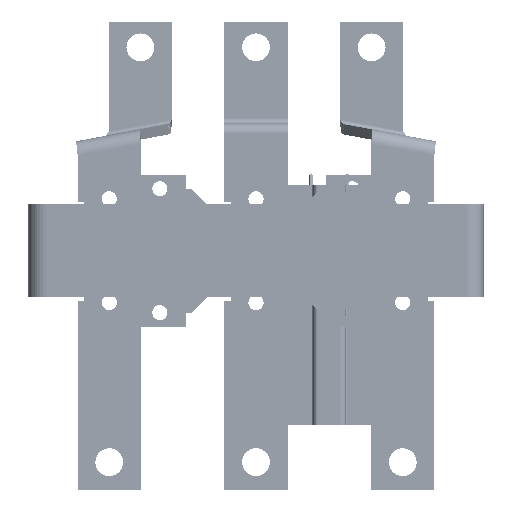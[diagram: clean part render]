
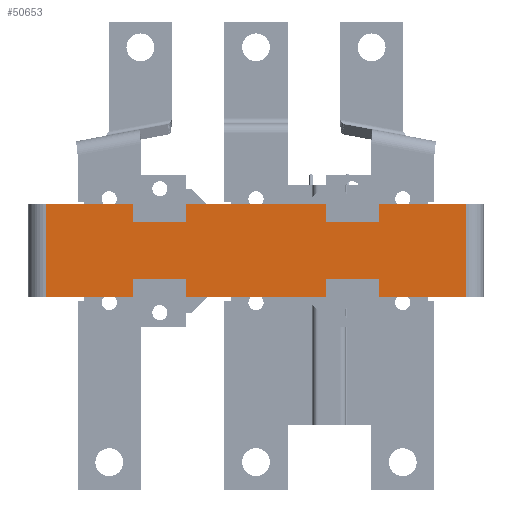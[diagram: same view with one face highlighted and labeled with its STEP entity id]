
A CAD part, left-side view. The second image highlights one B-rep face of the part: STEP entity #50653.
In plain terms, the highlighted planar face has unit normal (-1, 0, 0).
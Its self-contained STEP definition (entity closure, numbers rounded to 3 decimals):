
#9661=PLANE('',#163171);
#21871=LINE('',#264073,#38754);
#21875=LINE('',#264081,#38758);
#21887=LINE('',#264105,#38770);
#21899=LINE('',#264134,#38782);
#21901=LINE('',#264138,#38784);
#21914=LINE('',#264164,#38797);
#22194=LINE('',#264730,#39077);
#22201=LINE('',#264744,#39084);
#22217=LINE('',#264776,#39100);
#22240=LINE('',#264827,#39123);
#22242=LINE('',#264831,#39125);
#22244=LINE('',#264835,#39127);
#22259=LINE('',#264875,#39142);
#22347=LINE('',#265072,#39230);
#22348=LINE('',#265073,#39231);
#22349=LINE('',#265074,#39232);
#22351=LINE('',#265077,#39234);
#22352=LINE('',#265081,#39235);
#22353=LINE('',#265082,#39236);
#22354=LINE('',#265083,#39237);
#38754=VECTOR('',#192175,1.);
#38758=VECTOR('',#192181,1.);
#38770=VECTOR('',#192205,1.);
#38782=VECTOR('',#192229,1.);
#38784=VECTOR('',#192233,1.);
#38797=VECTOR('',#192258,1.);
#39077=VECTOR('',#192736,1.);
#39084=VECTOR('',#192747,1.);
#39100=VECTOR('',#192777,1.);
#39123=VECTOR('',#192822,1.);
#39125=VECTOR('',#192826,1.);
#39127=VECTOR('',#192830,1.);
#39142=VECTOR('',#192865,1.);
#39230=VECTOR('',#193041,1.);
#39231=VECTOR('',#193042,1.);
#39232=VECTOR('',#193043,1.);
#39234=VECTOR('',#193047,1.);
#39235=VECTOR('',#193052,1.);
#39236=VECTOR('',#193053,1.);
#39237=VECTOR('',#193054,1.);
#50653=ADVANCED_FACE('F180',(#58956),#9661,.T.);
#58956=FACE_OUTER_BOUND('',#67442,.T.);
#67442=EDGE_LOOP('',(#99035,#99036,#99037,#99038,#99039,#99040,#99041,#99042,
#99043,#99044,#99045,#99046,#99047,#99048,#99049,#99050,#99051,#99052,#99053,
#99054));
#99035=ORIENTED_EDGE('',*,*,#144514,.T.);
#99036=ORIENTED_EDGE('',*,*,#144516,.T.);
#99037=ORIENTED_EDGE('',*,*,#144058,.T.);
#99038=ORIENTED_EDGE('',*,*,#144043,.T.);
#99039=ORIENTED_EDGE('',*,*,#144045,.T.);
#99040=ORIENTED_EDGE('',*,*,#144517,.T.);
#99041=ORIENTED_EDGE('',*,*,#144029,.T.);
#99042=ORIENTED_EDGE('',*,*,#144013,.T.);
#99043=ORIENTED_EDGE('',*,*,#144017,.T.);
#99044=ORIENTED_EDGE('',*,*,#144518,.T.);
#99045=ORIENTED_EDGE('',*,*,#144411,.T.);
#99046=ORIENTED_EDGE('',*,*,#144512,.T.);
#99047=ORIENTED_EDGE('',*,*,#144347,.T.);
#99048=ORIENTED_EDGE('',*,*,#144340,.T.);
#99049=ORIENTED_EDGE('',*,*,#144363,.T.);
#99050=ORIENTED_EDGE('',*,*,#144511,.T.);
#99051=ORIENTED_EDGE('',*,*,#144388,.T.);
#99052=ORIENTED_EDGE('',*,*,#144390,.T.);
#99053=ORIENTED_EDGE('',*,*,#144392,.T.);
#99054=ORIENTED_EDGE('',*,*,#144510,.T.);
#124569=VERTEX_POINT('',#264072);
#124570=VERTEX_POINT('',#264074);
#124572=VERTEX_POINT('',#264080);
#124578=VERTEX_POINT('',#264104);
#124589=VERTEX_POINT('',#264133);
#124590=VERTEX_POINT('',#264135);
#124591=VERTEX_POINT('',#264139);
#124598=VERTEX_POINT('',#264165);
#124781=VERTEX_POINT('',#264724);
#124784=VERTEX_POINT('',#264729);
#124788=VERTEX_POINT('',#264740);
#124798=VERTEX_POINT('',#264775);
#124815=VERTEX_POINT('',#264826);
#124816=VERTEX_POINT('',#264828);
#124817=VERTEX_POINT('',#264832);
#124818=VERTEX_POINT('',#264836);
#124830=VERTEX_POINT('',#264870);
#124832=VERTEX_POINT('',#264874);
#124897=VERTEX_POINT('',#265071);
#124898=VERTEX_POINT('',#265078);
#144013=EDGE_CURVE('E114',#124570,#124569,#21871,.T.);
#144017=EDGE_CURVE('E108',#124569,#124572,#21875,.T.);
#144029=EDGE_CURVE('E112',#124578,#124570,#21887,.T.);
#144043=EDGE_CURVE('E368',#124590,#124589,#21899,.T.);
#144045=EDGE_CURVE('E366',#124589,#124591,#21901,.T.);
#144058=EDGE_CURVE('E362',#124598,#124590,#21914,.T.);
#144340=EDGE_CURVE('E113',#124781,#124784,#22194,.T.);
#144347=EDGE_CURVE('E103',#124788,#124781,#22201,.T.);
#144363=EDGE_CURVE('E105',#124784,#124798,#22217,.T.);
#144388=EDGE_CURVE('E359',#124816,#124815,#22240,.T.);
#144390=EDGE_CURVE('E367',#124815,#124817,#22242,.T.);
#144392=EDGE_CURVE('E357',#124817,#124818,#22244,.T.);
#144411=EDGE_CURVE('E134',#124830,#124832,#22259,.T.);
#144510=EDGE_CURVE('E509',#124818,#124897,#22347,.T.);
#144511=EDGE_CURVE('E510',#124798,#124816,#22348,.T.);
#144512=EDGE_CURVE('E512',#124832,#124788,#22349,.T.);
#144514=EDGE_CURVE('E388',#124897,#124898,#22351,.T.);
#144516=EDGE_CURVE('E520',#124898,#124598,#22352,.T.);
#144517=EDGE_CURVE('E524',#124591,#124578,#22353,.T.);
#144518=EDGE_CURVE('E523',#124572,#124830,#22354,.T.);
#163171=AXIS2_PLACEMENT_3D('',#265084,#193055,#193056);
#192175=DIRECTION('',(0.,-1.,0.));
#192181=DIRECTION('',(0.,0.,-1.));
#192205=DIRECTION('',(0.,0.,1.));
#192229=DIRECTION('',(0.,-1.,0.));
#192233=DIRECTION('',(0.,0.,-1.));
#192258=DIRECTION('',(0.,0.,1.));
#192736=DIRECTION('',(0.,1.,0.));
#192747=DIRECTION('',(0.,0.,-1.));
#192777=DIRECTION('',(0.,0.,1.));
#192822=DIRECTION('',(0.,0.,-1.));
#192826=DIRECTION('',(0.,1.,0.));
#192830=DIRECTION('',(0.,0.,1.));
#192865=DIRECTION('',(0.,0.,1.));
#193041=DIRECTION('',(0.,1.,0.));
#193042=DIRECTION('',(0.,1.,0.));
#193043=DIRECTION('',(0.,1.,0.));
#193047=DIRECTION('',(0.,0.,-1.));
#193052=DIRECTION('',(0.,-1.,0.));
#193053=DIRECTION('',(0.,-1.,0.));
#193054=DIRECTION('',(0.,-1.,0.));
#193055=DIRECTION('',(-1.,0.,0.));
#193056=DIRECTION('',(0.,-1.,0.));
#264072=CARTESIAN_POINT('',(9.122,-142.24,72.162));
#264073=CARTESIAN_POINT('',(9.122,-131.74,72.162));
#264074=CARTESIAN_POINT('',(9.122,-121.24,72.162));
#264080=CARTESIAN_POINT('',(9.122,-142.24,65.035));
#264081=CARTESIAN_POINT('',(9.122,-142.24,68.599));
#264104=CARTESIAN_POINT('',(9.122,-121.24,65.035));
#264105=CARTESIAN_POINT('',(9.122,-121.24,68.599));
#264133=CARTESIAN_POINT('',(9.122,-66.24,72.162));
#264134=CARTESIAN_POINT('',(9.122,-55.74,72.162));
#264135=CARTESIAN_POINT('',(9.122,-45.24,72.162));
#264138=CARTESIAN_POINT('',(9.122,-66.24,68.599));
#264139=CARTESIAN_POINT('',(9.122,-66.24,65.035));
#264164=CARTESIAN_POINT('',(9.122,-45.24,68.599));
#264165=CARTESIAN_POINT('',(9.122,-45.24,65.035));
#264724=CARTESIAN_POINT('',(9.122,-142.24,94.909));
#264729=CARTESIAN_POINT('',(9.122,-121.24,94.909));
#264730=CARTESIAN_POINT('',(9.122,-131.74,94.909));
#264740=CARTESIAN_POINT('',(9.122,-142.24,102.035));
#264744=CARTESIAN_POINT('',(9.122,-142.24,98.472));
#264775=CARTESIAN_POINT('',(9.122,-121.24,102.035));
#264776=CARTESIAN_POINT('',(9.122,-121.24,98.472));
#264826=CARTESIAN_POINT('',(9.122,-66.24,94.909));
#264827=CARTESIAN_POINT('',(9.122,-66.24,98.472));
#264828=CARTESIAN_POINT('',(9.122,-66.24,102.035));
#264831=CARTESIAN_POINT('',(9.122,-55.74,94.909));
#264832=CARTESIAN_POINT('',(9.122,-45.24,94.909));
#264835=CARTESIAN_POINT('',(9.122,-45.24,98.472));
#264836=CARTESIAN_POINT('',(9.122,-45.24,102.035));
#264870=CARTESIAN_POINT('',(9.122,-176.74,65.035));
#264874=CARTESIAN_POINT('',(9.122,-176.74,102.035));
#264875=CARTESIAN_POINT('',(9.122,-176.74,83.535));
#265071=CARTESIAN_POINT('',(9.122,-10.74,102.035));
#265072=CARTESIAN_POINT('',(9.122,-27.99,102.035));
#265073=CARTESIAN_POINT('',(9.122,-93.74,102.035));
#265074=CARTESIAN_POINT('',(9.122,-159.49,102.035));
#265077=CARTESIAN_POINT('',(9.122,-10.74,83.535));
#265078=CARTESIAN_POINT('',(9.122,-10.74,65.035));
#265081=CARTESIAN_POINT('',(9.122,-27.99,65.035));
#265082=CARTESIAN_POINT('',(9.122,-93.74,65.035));
#265083=CARTESIAN_POINT('',(9.122,-159.49,65.035));
#265084=CARTESIAN_POINT('',(9.122,-3.64,64.935));
